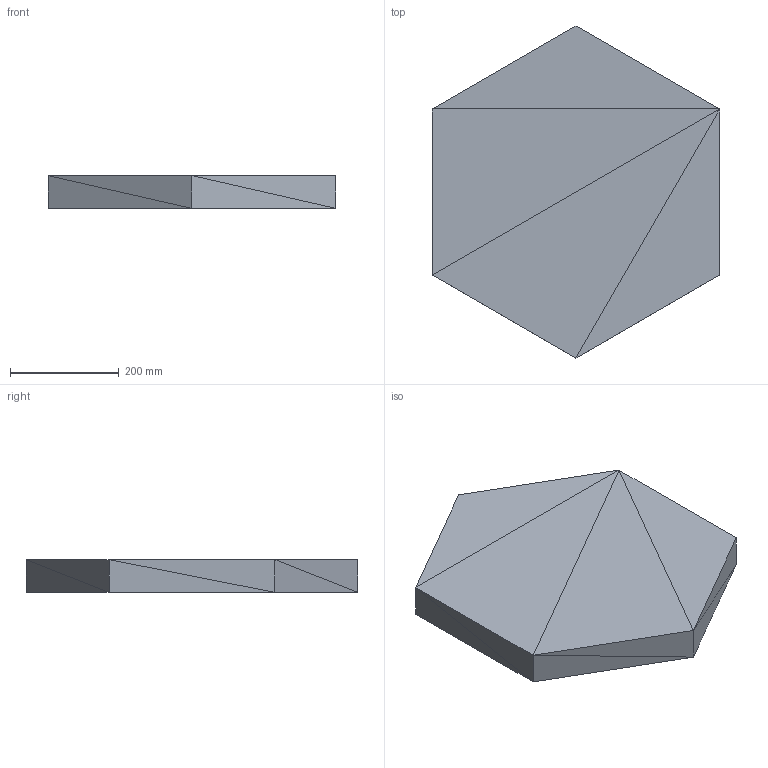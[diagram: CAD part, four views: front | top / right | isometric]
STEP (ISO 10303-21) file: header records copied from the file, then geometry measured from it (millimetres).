
FILE_DESCRIPTION(('ISINAC STEP AP214'),'2;1');
FILE_NAME('ISINAC_HEX.305_60mm_ADHESIVO','2026-05-03T10:49:19',('ISINAC'),('www.isinac.com'),'ISINAC BIM Generator 1.0','','');
FILE_SCHEMA(('AUTOMOTIVE_DESIGN'));
Length unit declared in the file: millimetre
Products named in the file (1): ISINAC_HEX.305_60mm_ADHESIVO
Bounding box: 528.28 x 610 x 60 mm (x, y, z)
Surface area: 593172 mm2 (no closed solid volume)
Topology: 0 solids, 20 shells, 20 faces, 60 edges, 60 vertices
Faces by surface type: plane 20
Entity records: 233 total; most frequent: CARTESIAN_POINT 80, DIRECTION 40, POLY_LOOP 20, FACE_OUTER_BOUND 20, AXIS2_PLACEMENT_3D 20, PLANE 20, FACE_SURFACE 20, CLOSED_SHELL 1
